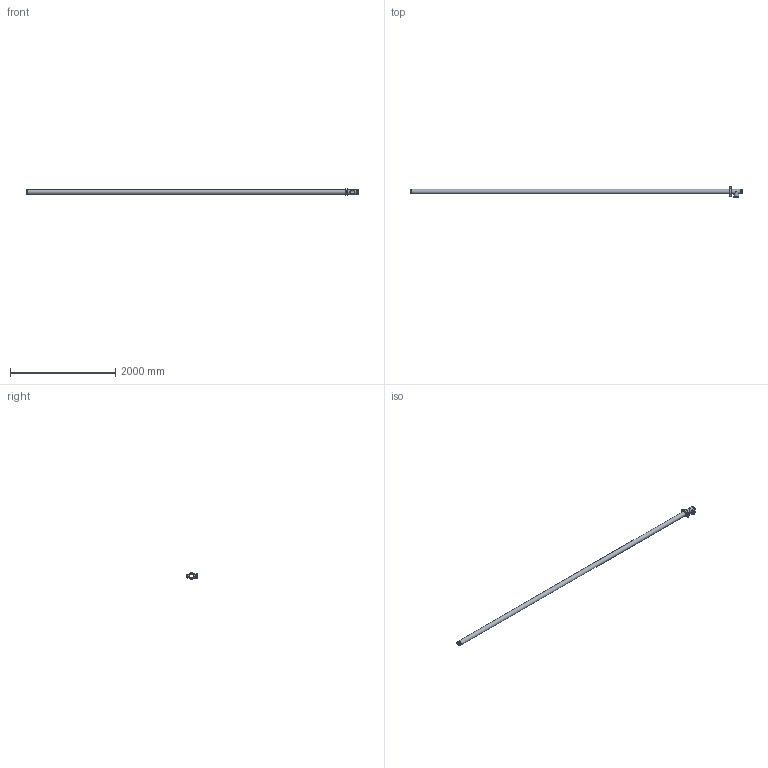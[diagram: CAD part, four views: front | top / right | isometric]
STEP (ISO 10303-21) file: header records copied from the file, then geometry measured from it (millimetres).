
FILE_DESCRIPTION(/* description */ ('VIC LONG RUN FITTING No R22 (OGS)','CAx-IF Rec.Pracs.---Representation and Presentation of Product Manufacturing Information (PMI)---4.0---2014-10-13'),/* implementation_level */ '2;1');
FILE_NAME(/* name */ 'C:\Users\Vjadhav\AppData\Roaming\Autodesk\ApplicationPlugins\Back Up\Victaulic_IPS_Long Run Fittings_No R22 (OGS)\Victaulic_IPS_Long Run Fittings_No R22 (OGS)_3 (80).stp',/* time_stamp */ '2020-10-14T10:37:46+05:00',/* author */ ('Vjadhav'),/* organization */ ('Victaulic'),/* preprocessor_version */ 'ST-DEVELOPER v17.2',/* originating_system */ 'Autodesk Inventor 2019',/* authorisation */ '');
FILE_SCHEMA (('AP242_MANAGED_MODEL_BASED_3D_ENGINEERING_MIM_LF { 1 0 10303 442 1 1 4 }'));
Length unit declared in the file: inch
Products named in the file (4): R22-03.0; 020-03.0; 177N-03.0; Pipe_R10-03.0
Assembly tree (3 placements, depth 2):
  R22-03.0
    020-03.0
    177N-03.0
    Pipe_R10-03.0
Bounding box: 6318.25 x 200.54 x 127 mm (x, y, z)
Volume: 9561094.7 mm3; surface area: 3418021.5 mm2
Topology: 3 solids, 3 shells, 122 faces, 331 edges, 226 vertices
Faces by surface type: plane 71, cylinder 41, cone 4, torus 4, sphere 2
Full cylindrical faces by diameter (mm): 12.7 x2, 22.225 x2, 76.2 x1, 77.927 x3, 84.938 x5, 88.9 x10
Entity records: 4315 total; most frequent: CARTESIAN_POINT 762, DIRECTION 723, ORIENTED_EDGE 670, EDGE_CURVE 335, AXIS2_PLACEMENT_3D 275, VERTEX_POINT 226, LINE 173, VECTOR 173
